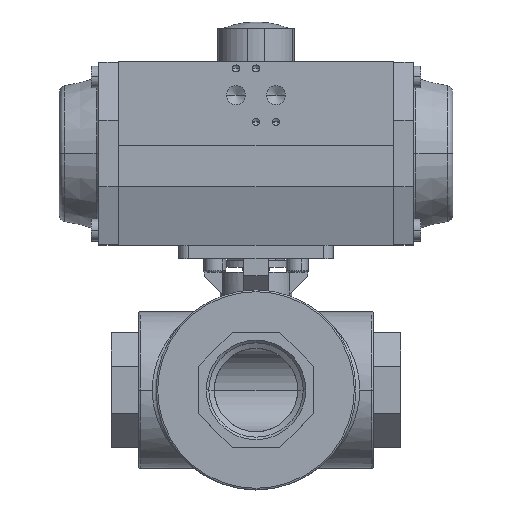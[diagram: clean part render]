
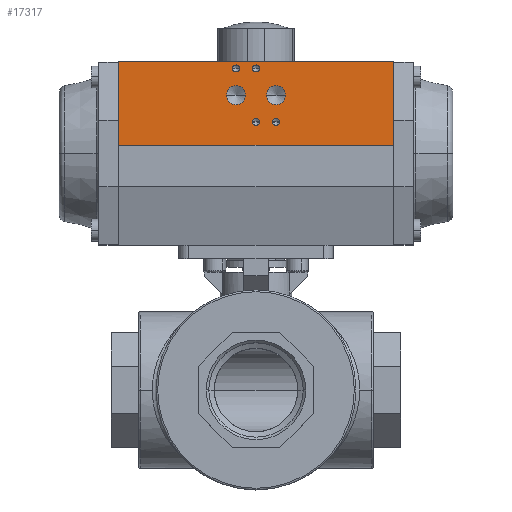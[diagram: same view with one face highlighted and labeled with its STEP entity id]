
A CAD part, top view. The second image highlights one B-rep face of the part: STEP entity #17317.
In plain terms, the highlighted planar face has unit normal (0, 0, 1) as drawn and (1, 0, 0) by its records, which use the part's own axes.
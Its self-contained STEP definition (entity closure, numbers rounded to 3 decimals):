
#34 = VECTOR ( 'NONE', #14475, 1000. ) ;
#668 = CARTESIAN_POINT ( 'NONE',  ( 53., 5., 82.5 ) ) ;
#670 = CARTESIAN_POINT ( 'NONE',  ( 53., 51., 14.1 ) ) ;
#5057 = CARTESIAN_POINT ( 'NONE',  ( 53., 35., 12. ) ) ;
#5058 = DIRECTION ( 'NONE',  ( 1., 0., 0. ) ) ;
#5059 = DIRECTION ( 'NONE',  ( 0., 0., -1. ) ) ;
#5075 = CARTESIAN_POINT ( 'NONE',  ( 53., 35., -12. ) ) ;
#5076 = DIRECTION ( 'NONE',  ( 1., 0., 0. ) ) ;
#5077 = DIRECTION ( 'NONE',  ( 0., 0., -1. ) ) ;
#5093 = CARTESIAN_POINT ( 'NONE',  ( 53., 51., 0. ) ) ;
#5094 = DIRECTION ( 'NONE',  ( 1., 0., 0. ) ) ;
#5095 = DIRECTION ( 'NONE',  ( 0., 0., -1. ) ) ;
#5111 = CARTESIAN_POINT ( 'NONE',  ( 53., 19., 0. ) ) ;
#5112 = DIRECTION ( 'NONE',  ( 1., 0., 0. ) ) ;
#5113 = DIRECTION ( 'NONE',  ( 0., 0., -1. ) ) ;
#5129 = CARTESIAN_POINT ( 'NONE',  ( 53., 19., -12. ) ) ;
#5130 = DIRECTION ( 'NONE',  ( 1., 0., 0. ) ) ;
#5131 = DIRECTION ( 'NONE',  ( 0., 0., -1. ) ) ;
#5147 = CARTESIAN_POINT ( 'NONE',  ( 53., 51., 12. ) ) ;
#5148 = DIRECTION ( 'NONE',  ( 1., 0., 0. ) ) ;
#5149 = DIRECTION ( 'NONE',  ( 0., 0., -1. ) ) ;
#5908 = VERTEX_POINT ( 'NONE', #10347 ) ;
#5931 = VERTEX_POINT ( 'NONE', #10368 ) ;
#5933 = VERTEX_POINT ( 'NONE', #10370 ) ;
#6247 = VERTEX_POINT ( 'NONE', #10584 ) ;
#6249 = VERTEX_POINT ( 'NONE', #10585 ) ;
#6256 = VERTEX_POINT ( 'NONE', #10591 ) ;
#6260 = VERTEX_POINT ( 'NONE', #10593 ) ;
#6343 = VERTEX_POINT ( 'NONE', #10649 ) ;
#6345 = VERTEX_POINT ( 'NONE', #10650 ) ;
#6353 = VERTEX_POINT ( 'NONE', #10654 ) ;
#6354 = VERTEX_POINT ( 'NONE', #10655 ) ;
#6366 = VERTEX_POINT ( 'NONE', #10664 ) ;
#6367 = VERTEX_POINT ( 'NONE', #10665 ) ;
#6383 = VERTEX_POINT ( 'NONE', #10675 ) ;
#6594 = EDGE_CURVE ( 'NONE', #6383, #7775, #15609, .T. ) ;
#6596 = EDGE_CURVE ( 'NONE', #5908, #5931, #14357, .T. ) ;
#6621 = EDGE_CURVE ( 'NONE', #7773, #5931, #14402, .T. ) ;
#6669 = EDGE_CURVE ( 'NONE', #5933, #5908, #14464, .T. ) ;
#7609 = AXIS2_PLACEMENT_3D ( 'NONE', #5147, #5148, #5149 ) ;
#7611 = CIRCLE ( 'NONE', #7609, 2.1 ) ;
#7618 = AXIS2_PLACEMENT_3D ( 'NONE', #5129, #5130, #5131 ) ;
#7623 = CIRCLE ( 'NONE', #7618, 2.1 ) ;
#7627 = AXIS2_PLACEMENT_3D ( 'NONE', #5111, #5112, #5113 ) ;
#7628 = CIRCLE ( 'NONE', #7627, 2.1 ) ;
#7773 = VERTEX_POINT ( 'NONE', #668 ) ;
#7775 = VERTEX_POINT ( 'NONE', #670 ) ;
#8564 = EDGE_CURVE ( 'NONE', #6249, #6247, #11384, .T. ) ;
#8570 = EDGE_CURVE ( 'NONE', #6260, #6256, #11369, .T. ) ;
#8576 = EDGE_CURVE ( 'NONE', #6345, #6343, #11381, .T. ) ;
#8582 = EDGE_CURVE ( 'NONE', #6354, #6353, #7628, .T. ) ;
#8588 = EDGE_CURVE ( 'NONE', #6367, #6366, #7623, .T. ) ;
#8594 = EDGE_CURVE ( 'NONE', #7775, #6383, #7611, .T. ) ;
#9459 = LINE ( 'NONE', #9460, #12664 ) ;
#9460 = CARTESIAN_POINT ( 'NONE',  ( 53., 5., -82.5 ) ) ;
#9461 = DIRECTION ( 'NONE',  ( 0., 0., 1. ) ) ;
#9462 = CARTESIAN_POINT ( 'NONE',  ( 53., 35., 12. ) ) ;
#9463 = DIRECTION ( 'NONE',  ( 1., 0., 0. ) ) ;
#9464 = DIRECTION ( 'NONE',  ( 0., 0., -1. ) ) ;
#9465 = CARTESIAN_POINT ( 'NONE',  ( 53., 35., -12. ) ) ;
#9466 = DIRECTION ( 'NONE',  ( 1., 0., 0. ) ) ;
#9467 = DIRECTION ( 'NONE',  ( 0., 0., -1. ) ) ;
#9469 = CARTESIAN_POINT ( 'NONE',  ( 53., 51., 0. ) ) ;
#9470 = DIRECTION ( 'NONE',  ( 1., 0., 0. ) ) ;
#9471 = DIRECTION ( 'NONE',  ( 0., 0., -1. ) ) ;
#9474 = CARTESIAN_POINT ( 'NONE',  ( 53., 19., 0. ) ) ;
#9475 = DIRECTION ( 'NONE',  ( 1., 0., 0. ) ) ;
#9476 = DIRECTION ( 'NONE',  ( 0., 0., -1. ) ) ;
#9479 = CARTESIAN_POINT ( 'NONE',  ( 53., 19., -12. ) ) ;
#9480 = DIRECTION ( 'NONE',  ( 1., 0., 0. ) ) ;
#9481 = DIRECTION ( 'NONE',  ( 0., 0., -1. ) ) ;
#9611 = CARTESIAN_POINT ( 'NONE',  ( 53., 5., -82.5 ) ) ;
#9615 = FACE_BOUND ( 'NONE', #9848, .T. ) ;
#9618 = FACE_BOUND ( 'NONE', #9906, .T. ) ;
#9619 = FACE_BOUND ( 'NONE', #9867, .T. ) ;
#9620 = FACE_BOUND ( 'NONE', #9824, .T. ) ;
#9621 = FACE_OUTER_BOUND ( 'NONE', #9792, .T. ) ;
#9622 = FACE_BOUND ( 'NONE', #9801, .T. ) ;
#9623 = PLANE ( 'NONE',  #12807 ) ;
#9624 = FACE_BOUND ( 'NONE', #9804, .T. ) ;
#9627 = DIRECTION ( 'NONE',  ( 1., 0., 0. ) ) ;
#9628 = DIRECTION ( 'NONE',  ( 0., 0., -1. ) ) ;
#9792 = EDGE_LOOP ( 'NONE', ( #10156, #10157, #10144, #10146 ) ) ;
#9801 = EDGE_LOOP ( 'NONE', ( #10150, #10148 ) ) ;
#9804 = EDGE_LOOP ( 'NONE', ( #10149, #10151 ) ) ;
#9824 = EDGE_LOOP ( 'NONE', ( #10154, #10155 ) ) ;
#9848 = EDGE_LOOP ( 'NONE', ( #10145, #10147 ) ) ;
#9867 = EDGE_LOOP ( 'NONE', ( #10160, #10138 ) ) ;
#9906 = EDGE_LOOP ( 'NONE', ( #10153, #10152 ) ) ;
#10138 = ORIENTED_EDGE ( 'NONE', *, *, #8594, .F. ) ;
#10144 = ORIENTED_EDGE ( 'NONE', *, *, #17294, .F. ) ;
#10145 = ORIENTED_EDGE ( 'NONE', *, *, #17299, .F. ) ;
#10146 = ORIENTED_EDGE ( 'NONE', *, *, #6669, .T. ) ;
#10147 = ORIENTED_EDGE ( 'NONE', *, *, #8588, .F. ) ;
#10148 = ORIENTED_EDGE ( 'NONE', *, *, #8582, .F. ) ;
#10149 = ORIENTED_EDGE ( 'NONE', *, *, #17297, .F. ) ;
#10150 = ORIENTED_EDGE ( 'NONE', *, *, #17298, .F. ) ;
#10151 = ORIENTED_EDGE ( 'NONE', *, *, #8576, .F. ) ;
#10152 = ORIENTED_EDGE ( 'NONE', *, *, #8570, .F. ) ;
#10153 = ORIENTED_EDGE ( 'NONE', *, *, #17296, .F. ) ;
#10154 = ORIENTED_EDGE ( 'NONE', *, *, #17295, .F. ) ;
#10155 = ORIENTED_EDGE ( 'NONE', *, *, #8564, .F. ) ;
#10156 = ORIENTED_EDGE ( 'NONE', *, *, #6596, .T. ) ;
#10157 = ORIENTED_EDGE ( 'NONE', *, *, #6621, .F. ) ;
#10160 = ORIENTED_EDGE ( 'NONE', *, *, #6594, .F. ) ;
#10347 = CARTESIAN_POINT ( 'NONE',  ( 53., 55., -82.5 ) ) ;
#10368 = CARTESIAN_POINT ( 'NONE',  ( 53., 55., 82.5 ) ) ;
#10370 = CARTESIAN_POINT ( 'NONE',  ( 53., 5., -82.5 ) ) ;
#10584 = CARTESIAN_POINT ( 'NONE',  ( 53., 35., 6.277 ) ) ;
#10585 = CARTESIAN_POINT ( 'NONE',  ( 53., 35., 17.722 ) ) ;
#10591 = CARTESIAN_POINT ( 'NONE',  ( 53., 35., -17.722 ) ) ;
#10593 = CARTESIAN_POINT ( 'NONE',  ( 53., 35., -6.277 ) ) ;
#10649 = CARTESIAN_POINT ( 'NONE',  ( 53., 51., -2.1 ) ) ;
#10650 = CARTESIAN_POINT ( 'NONE',  ( 53., 51., 2.1 ) ) ;
#10654 = CARTESIAN_POINT ( 'NONE',  ( 53., 19., -2.1 ) ) ;
#10655 = CARTESIAN_POINT ( 'NONE',  ( 53., 19., 2.1 ) ) ;
#10664 = CARTESIAN_POINT ( 'NONE',  ( 53., 19., -14.1 ) ) ;
#10665 = CARTESIAN_POINT ( 'NONE',  ( 53., 19., -9.9 ) ) ;
#10675 = CARTESIAN_POINT ( 'NONE',  ( 53., 51., 9.9 ) ) ;
#11363 = AXIS2_PLACEMENT_3D ( 'NONE', #5075, #5076, #5077 ) ;
#11365 = AXIS2_PLACEMENT_3D ( 'NONE', #5093, #5094, #5095 ) ;
#11369 = CIRCLE ( 'NONE', #11363, 5.722 ) ;
#11374 = AXIS2_PLACEMENT_3D ( 'NONE', #5057, #5058, #5059 ) ;
#11381 = CIRCLE ( 'NONE', #11365, 2.1 ) ;
#11384 = CIRCLE ( 'NONE', #11374, 5.722 ) ;
#12664 = VECTOR ( 'NONE', #9461, 1000. ) ;
#12666 = CIRCLE ( 'NONE', #12670, 5.722 ) ;
#12668 = CIRCLE ( 'NONE', #12675, 5.722 ) ;
#12670 = AXIS2_PLACEMENT_3D ( 'NONE', #9462, #9463, #9464 ) ;
#12673 = CIRCLE ( 'NONE', #12679, 2.1 ) ;
#12675 = AXIS2_PLACEMENT_3D ( 'NONE', #9465, #9466, #9467 ) ;
#12677 = CIRCLE ( 'NONE', #12683, 2.1 ) ;
#12679 = AXIS2_PLACEMENT_3D ( 'NONE', #9469, #9470, #9471 ) ;
#12681 = CIRCLE ( 'NONE', #12688, 2.1 ) ;
#12683 = AXIS2_PLACEMENT_3D ( 'NONE', #9474, #9475, #9476 ) ;
#12688 = AXIS2_PLACEMENT_3D ( 'NONE', #9479, #9480, #9481 ) ;
#12807 = AXIS2_PLACEMENT_3D ( 'NONE', #9611, #9627, #9628 ) ;
#14353 = CARTESIAN_POINT ( 'NONE',  ( 53., 55., -82.5 ) ) ;
#14357 = LINE ( 'NONE', #14353, #15589 ) ;
#14358 = CARTESIAN_POINT ( 'NONE',  ( 53., 51., 12. ) ) ;
#14359 = DIRECTION ( 'NONE',  ( 1., 0., 0. ) ) ;
#14360 = DIRECTION ( 'NONE',  ( 0., 0., -1. ) ) ;
#14361 = DIRECTION ( 'NONE',  ( 0., 0., 1. ) ) ;
#14402 = LINE ( 'NONE', #14404, #15557 ) ;
#14404 = CARTESIAN_POINT ( 'NONE',  ( 53., 5., 82.5 ) ) ;
#14405 = DIRECTION ( 'NONE',  ( 0., 1., 0. ) ) ;
#14464 = LINE ( 'NONE', #14474, #34 ) ;
#14474 = CARTESIAN_POINT ( 'NONE',  ( 53., 5., -82.5 ) ) ;
#14475 = DIRECTION ( 'NONE',  ( 0., 1., 0. ) ) ;
#15554 = AXIS2_PLACEMENT_3D ( 'NONE', #14358, #14359, #14360 ) ;
#15557 = VECTOR ( 'NONE', #14405, 1000. ) ;
#15589 = VECTOR ( 'NONE', #14361, 1000. ) ;
#15609 = CIRCLE ( 'NONE', #15554, 2.1 ) ;
#17294 = EDGE_CURVE ( 'NONE', #5933, #7773, #9459, .T. ) ;
#17295 = EDGE_CURVE ( 'NONE', #6247, #6249, #12666, .T. ) ;
#17296 = EDGE_CURVE ( 'NONE', #6256, #6260, #12668, .T. ) ;
#17297 = EDGE_CURVE ( 'NONE', #6343, #6345, #12673, .T. ) ;
#17298 = EDGE_CURVE ( 'NONE', #6353, #6354, #12677, .T. ) ;
#17299 = EDGE_CURVE ( 'NONE', #6366, #6367, #12681, .T. ) ;
#17317 = ADVANCED_FACE ( 'NONE', ( #9619, #9615, #9622, #9624, #9618, #9620, #9621 ), #9623, .T. ) ;
